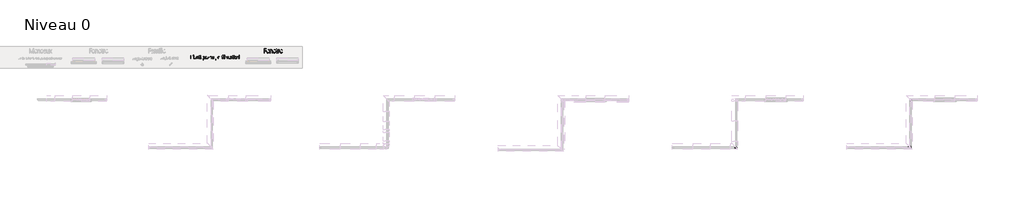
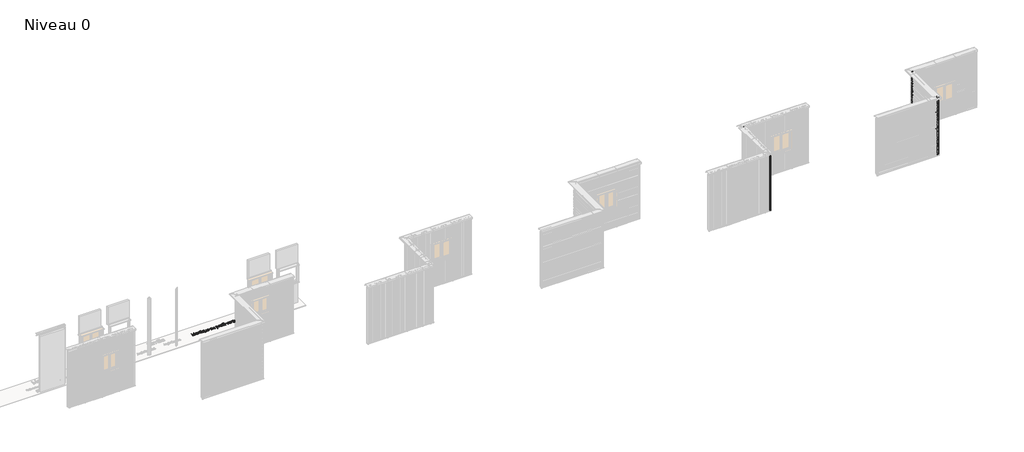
# One storey, part 8 of 11: 6 proxies.
"""IFC4 building model written with IfcOpenShell, lengths in millimetres."""

from ifc_helpers import new_model, si_unit, origin, origin_with_axes, place, context, project, spatial, polyline, outline, extrude, transform, mapped, element, save
from components import generic_models_8bef1f62, generic_models_79ab70e4, generic_models_60d2bb67, generic_models_bf32fdc3

model = new_model("IFC4")

# Units and contexts
model_context = context("Model", 3, world=origin())
ifc_project = project(units=[si_unit("LENGTHUNIT", "METRE", prefix="MILLI")], contexts=[model_context])

# Site, building, storey
site = spatial("IfcSite", under=ifc_project)
building = spatial("IfcBuilding", under=site)
storey = spatial("IfcBuildingStorey", under=building, Name="Niveau 0", Elevation=0.0)

# Proxies
placement = place(None, origin())
generic_models_shape = generic_models_8bef1f62(model_context)
element("IfcBuildingElementProxy", 1, Name="Angle sortant V : Angle sortant V", ObjectType="Angle sortant V : Angle sortant V", at=placement, inside=storey, context=model_context, shape_type="MappedRepresentation", body=[
    mapped(generic_models_shape, transform((35916.1625566, -19143.0925195, 30.7239521), x_axis=(1.0, 0.0, 0.0), y_axis=(0.0, 1.0, 0.0), z_axis=(0.0, 0.0, 1.0))),
])
generic_models_2_shape = generic_models_79ab70e4(model_context)
element("IfcBuildingElementProxy", 2, Name="Angle Rentrant V : Angle Rentrant V", ObjectType="Angle Rentrant V : Angle Rentrant V", at=placement, inside=storey, context=model_context, shape_type="MappedRepresentation", body=[
    mapped(generic_models_2_shape, transform((35891.6404896, -16912.8730274, 30.7239521), x_axis=(-1.0, 0.0, 0.0), y_axis=(0.0, -1.0, 0.0), z_axis=(0.0, 0.0, 1.0))),
])
generic_models_3_shape = generic_models_60d2bb67(model_context)
element("IfcBuildingElementProxy", 3, Name="Angle sortant H : Angle sortant H", ObjectType="Angle sortant H : Angle sortant H", at=placement, inside=storey, context=model_context, shape_type="MappedRepresentation", body=[
    mapped(generic_models_3_shape, transform((43878.0369394, -19123.2135395, 30.7239521), x_axis=(1.0, 0.0, 0.0), y_axis=(0.0, 1.0, 0.0), z_axis=(0.0, 0.0, 1.0))),
])
generic_models_4_shape = generic_models_bf32fdc3(model_context)
element("IfcBuildingElementProxy", 4, Name="Angle Rentrant H : Angle Rentrant H", ObjectType="Angle Rentrant H : Angle Rentrant H", at=placement, inside=storey, context=model_context, shape_type="MappedRepresentation", body=[
    mapped(generic_models_4_shape, transform((43835.6136634, -16880.8730274, 30.7239521), x_axis=(-1.0, 0.0, 0.0), y_axis=(0.0, -1.0, 0.0), z_axis=(0.0, 0.0, 1.0))),
])
element("IfcBuildingElementProxy", 5, Name="1.5mm", ObjectType="1.5mm", at=placement, inside=storey, context=model_context, shape_type="SweptSolid", body=[
    extrude(outline(polyline([(10902.4914803, -15028.8347653), (10895.5043429, -15028.8347653), (10895.5043429, -14877.3265782), (10902.4914803, -14877.3265782), (10902.4914803, -15028.8347653)])), origin_with_axes(), (0.0, 0.0, 1.0), 10.0),
    extrude(outline(polyline([(11014.488532, -15005.4842027), (11007.8282123, -15016.3255354), (10998.6885857, -15024.5072479), (10987.4640875, -15029.6461748), (10974.7069268, -15031.3591505), (10956.0163341, -15027.5951119), (10941.4165977, -15016.3029962), (10932.0008665, -14998.7788047), (10928.8622894, -14976.3185386), (10932.44038, -14952.1227578), (10943.1746516, -14933.6293827), (10959.2168939, -14921.8977535), (10978.7188961, -14917.9872104), (10999.9958566, -14923.2162939), (11008.3128041, -14929.549796), (11014.3307579, -14938.092135), (11014.6463061, -14868.6715435), (11021.1826605, -14868.6715435), (11021.1826605, -15028.8347653), (11014.6463061, -15028.8347653), (11014.488532, -15005.4842027)]), holes=[polyline([(10935.6240354, -14975.9128339), (10938.3569077, -14996.6601243), (10946.5555246, -15012.2008703), (10959.1041981, -15021.9039757), (10974.88724, -15025.1383442), (10991.1548738, -15022.0335759), (11003.8049735, -15012.7192709), (11011.9359729, -14998.6830133), (11014.6463061, -14981.4123872), (11014.6463061, -14958.7830775), (11012.0824774, -14945.2821248), (11004.3909914, -14934.1703223), (10992.8115015, -14926.7324018), (10978.5836611, -14924.253095), (10961.6060441, -14927.7353941), (10947.8177172, -14938.1822916), (10938.6724558, -14954.5795255), (10935.6240354, -14975.9128339)])]), origin_with_axes(), (0.0, 0.0, 1.0), 10.0),
    extrude(outline(polyline([(11136.4028111, -14971.9234038), (11053.7742759, -14972.7122741), (11056.3268349, -14995.7754625), (11064.6156085, -15012.1332529), (11077.6601433, -15021.9096105), (11094.4799863, -15025.2285008), (11114.9455373, -15020.1571914), (11129.4156736, -15004.943263), (11135.1406185, -15008.0085879), (11127.8830112, -15018.1568415), (11118.5518018, -15025.5215098), (11107.3498428, -15030.0011665), (11094.4799863, -15031.4943854), (11075.0681407, -15027.8035991), (11060.0176213, -15017.0017099), (11050.365229, -14998.6717437), (11047.1477648, -14972.396726), (11050.4835595, -14950.2125645), (11060.4909435, -14932.8855906), (11075.6597935, -14921.7118055), (11094.4799863, -14917.9872104), (11112.1732215, -14921.3962573), (11125.4037044, -14931.623398), (11133.6530344, -14948.3192757), (11136.4028111, -14971.9234038)]), holes=[polyline([(11129.7312218, -14966.6267028), (11127.0603321, -14948.2291191), (11119.8590727, -14934.9591927), (11108.7247311, -14926.9296194), (11094.2545948, -14924.253095), (11079.0237621, -14926.9972369), (11066.6892106, -14935.2296625), (11058.0961585, -14948.5672064), (11054.089824, -14966.6267028), (11129.7312218, -14966.6267028)])]), origin_with_axes(), (0.0, 0.0, 1.0), 10.0),
    extrude(outline(polyline([(11241.8860475, -15028.8347653), (11235.4398498, -15028.8347653), (11235.4398498, -14961.4426976), (11233.3775173, -14945.7498122), (11227.1905197, -14934.0125483), (11217.3296403, -14926.6929583), (11204.2456619, -14924.253095), (11189.7980648, -14926.8676367), (11178.2805575, -14934.711262), (11170.7412108, -14946.6232044), (11168.2280952, -14961.4426976), (11168.2280952, -15028.8347653), (11161.6917409, -15028.8347653), (11161.6917409, -14920.6468305), (11168.2280952, -14920.6468305), (11168.2280952, -14939.128936), (11183.0813971, -14923.4416855), (11204.6062883, -14917.9872104), (11220.3386172, -14920.8553176), (11232.1040551, -14929.4596393), (11239.4405494, -14943.0338443), (11241.8860475, -14960.8116013), (11241.8860475, -15028.8347653)])), origin_with_axes(), (0.0, 0.0, 1.0), 10.0),
    extrude(outline(polyline([(11315.6792348, -15023.5606035), (11306.7762693, -15029.2179309), (11296.9717377, -15030.9534457), (11288.0856766, -15029.4714964), (11281.7127311, -15025.0256484), (11277.8754402, -15017.6271714), (11276.5963433, -15007.287335), (11276.5963433, -14926.6873235), (11256.7618886, -14926.6873235), (11256.7618886, -14920.6468305), (11276.5963433, -14920.6468305), (11276.5963433, -14891.571323), (11283.1326977, -14890.4443653), (11283.1326977, -14920.6468305), (11312.6139099, -14920.6468305), (11312.6139099, -14926.6873235), (11283.1326977, -14926.6873235), (11283.1326977, -15006.8365519), (11286.7389622, -15020.4276612), (11297.4225208, -15024.9129527), (11304.8604413, -15023.492986), (11311.892657, -15018.782303), (11315.6792348, -15023.5606035)])), origin_with_axes(), (0.0, 0.0, 1.0), 10.0),
    extrude(outline(polyline([(11340.8329296, -15028.8347653), (11334.2514969, -15028.8347653), (11334.2514969, -14920.6468305), (11340.8329296, -14920.6468305), (11340.8329296, -15028.8347653)])), origin_with_axes(), (0.0, 0.0, 1.0), 10.0),
    extrude(outline(polyline([(11337.4520566, -14894.2309431), (11332.4709038, -14892.3376542), (11330.4649192, -14887.3790405), (11332.4709038, -14882.3978877), (11337.4520566, -14880.4820597), (11342.5459052, -14882.3978877), (11344.3941158, -14887.3790405), (11342.5459052, -14892.3376542), (11337.4520566, -14894.2309431)])), origin_with_axes(), (0.0, 0.0, 1.0), 10.0),
    extrude(outline(polyline([(11462.5894346, -15078.6012153), (11456.0530802, -15078.6012153), (11456.0530802, -15005.3940461), (11448.9363426, -15016.415692), (11439.8023508, -15024.5974045), (11428.7299919, -15029.668714), (11416.1137009, -15031.3591505), (11397.3667604, -15027.5951119), (11382.7782935, -15016.3029962), (11373.396371, -14998.7788047), (11370.2690635, -14976.3185386), (11373.8471541, -14952.1227578), (11384.5814258, -14933.6293827), (11400.623668, -14921.8977535), (11420.1256702, -14917.9872104), (11441.3575524, -14923.1261373), (11455.7375321, -14938.1822916), (11456.0530802, -14920.6468305), (11462.5894346, -14920.6468305), (11462.5894346, -15078.6012153)]), holes=[polyline([(11456.0530802, -14981.0968391), (11456.0530802, -14959.1887823), (11453.5174255, -14945.3272031), (11445.9104613, -14934.125244), (11434.3591454, -14926.7211322), (11419.9904353, -14924.253095), (11403.0128182, -14927.7241246), (11389.2244913, -14938.1372133), (11380.0792299, -14954.5231776), (11377.0308095, -14975.9128339), (11379.7467774, -14996.6601243), (11387.8946813, -15012.2008703), (11400.4264504, -15021.9039757), (11416.2940142, -15025.1383442), (11432.4207782, -15022.0054019), (11445.0990518, -15012.6065751), (11453.3145731, -14998.4632565), (11456.0530802, -14981.0968391)])]), origin_with_axes(), (0.0, 0.0, 1.0), 10.0),
    extrude(outline(polyline([(11574.3385556, -15028.7446087), (11567.8923578, -15028.7446087), (11567.8923578, -15010.2174249), (11552.8812819, -15025.9272146), (11531.9649478, -15031.3591505), (11516.2776973, -15028.5361215), (11504.2868678, -15020.0670348), (11496.6799037, -15006.6055256), (11494.1442489, -14988.8052294), (11494.1442489, -14920.5566739), (11500.6806033, -14920.5566739), (11500.6806033, -14988.1741331), (11502.8049185, -15003.5571051), (11509.177864, -15015.2661952), (11519.2585003, -15022.6703069), (11532.5058875, -15025.1383442), (11546.4801624, -15022.5125329), (11557.8398956, -15014.6350989), (11565.3792423, -15002.7118869), (11567.8923578, -14987.9487416), (11567.8923578, -14920.5566739), (11574.3385556, -14920.5566739), (11574.3385556, -15028.7446087)])), origin_with_axes(), (0.0, 0.0, 1.0), 10.0),
    extrude(outline(polyline([(11687.4400258, -14971.9234038), (11604.8114906, -14972.7122741), (11607.3640497, -14995.7754625), (11615.6528232, -15012.1332529), (11628.6973581, -15021.9096105), (11645.5172011, -15025.2285008), (11665.9827521, -15020.1571914), (11680.4528884, -15004.943263), (11686.1778333, -15008.0085879), (11678.920226, -15018.1568415), (11669.5890166, -15025.5215098), (11658.3870575, -15030.0011665), (11645.5172011, -15031.4943854), (11626.1053555, -15027.8035991), (11611.054836, -15017.0017099), (11601.4024437, -14998.6717437), (11598.1849796, -14972.396726), (11601.5207743, -14950.2125645), (11611.5281582, -14932.8855906), (11626.6970083, -14921.7118055), (11645.5172011, -14917.9872104), (11663.2104363, -14921.3962573), (11676.4409191, -14931.623398), (11684.6902492, -14948.3192757), (11687.4400258, -14971.9234038)]), holes=[polyline([(11680.7684365, -14966.6267028), (11678.0975469, -14948.2291191), (11670.8962875, -14934.9591927), (11659.7619458, -14926.9296194), (11645.2918096, -14924.253095), (11630.0609769, -14926.9972369), (11617.7264253, -14935.2296625), (11609.1333732, -14948.5672064), (11605.1270387, -14966.6267028), (11680.7684365, -14966.6267028)])]), origin_with_axes(), (0.0, 0.0, 1.0), 10.0),
    extrude(outline(polyline([(11836.8295325, -15028.8347653), (11830.2480998, -15028.8347653), (11830.2480998, -15008.0085879), (11814.3579969, -15024.8227961), (11803.4884903, -15029.7250619), (11791.4807565, -15031.3591505), (11777.5290207, -15029.2461049), (11767.1384712, -15022.9069681), (11760.6810038, -15013.2658453), (11758.5285147, -15001.2468419), (11760.8782214, -14988.9799079), (11767.9273415, -14979.2260894), (11780.0026928, -14972.1431605), (11797.4310929, -14967.8888954), (11830.3833347, -14963.2458298), (11830.3833347, -14956.8897887), (11828.3097326, -14942.7802788), (11822.0889264, -14932.5475033), (11812.3294731, -14926.3266971), (11799.6399299, -14924.253095), (11780.7746588, -14929.3244044), (11767.1835495, -14944.3129412), (11761.1881347, -14940.9320683), (11777.5966382, -14923.8699294), (11799.6399299, -14917.9872104), (11814.9102061, -14920.5115956), (11826.7319919, -14928.084751), (11834.3051474, -14940.3573199), (11836.8295325, -14956.9799453), (11836.8295325, -15028.8347653)]), holes=[polyline([(11830.2480998, -14986.686549), (11830.2480998, -14969.4666361), (11798.2425024, -14973.7941535), (11783.5018963, -14977.1975656), (11773.2691208, -14982.8098147), (11767.2849757, -14990.732327), (11765.2902606, -15001.0665287), (11767.0990276, -15011.090817), (11772.5253287, -15018.8048422), (11781.0169547, -15023.7240124), (11792.0216962, -15025.3637357), (11806.5200064, -15022.5745155), (11818.9109058, -15014.206855), (11827.4138013, -15001.7483381), (11830.2480998, -14986.686549)])]), origin_with_axes(), (0.0, 0.0, 1.0), 10.0),
    extrude(outline(polyline([(11946.5050515, -15028.7446087), (11940.0588537, -15028.7446087), (11940.0588537, -15010.2174249), (11925.0477777, -15025.9272146), (11904.1314436, -15031.3591505), (11888.4441931, -15028.5361215), (11876.4533636, -15020.0670348), (11868.8463995, -15006.6055256), (11866.3107448, -14988.8052294), (11866.3107448, -14920.5566739), (11872.8470992, -14920.5566739), (11872.8470992, -14988.1741331), (11874.9714143, -15003.5571051), (11881.3443599, -15015.2661952), (11891.4249961, -15022.6703069), (11904.6723833, -15025.1383442), (11918.6466582, -15022.5125329), (11930.0063914, -15014.6350989), (11937.5457381, -15002.7118869), (11940.0588537, -14987.9487416), (11940.0588537, -14920.5566739), (11946.5050515, -14920.5566739), (11946.5050515, -15028.7446087)])), origin_with_axes(), (0.0, 0.0, 1.0), 10.0),
    extrude(outline(polyline([(12036.9321337, -15010.4428164), (12036.6165855, -15078.6012153), (12030.0802311, -15078.6012153), (12030.0802311, -14920.6468305), (12036.6165855, -14920.6468305), (12036.6165855, -14945.2595857), (12043.3557923, -14934.3280964), (12052.439071, -14925.6054442), (12064.0467348, -14919.8917689), (12078.0435489, -14917.9872104), (12096.4242282, -14921.7005359), (12110.5450076, -14932.8405123), (12119.5381297, -14949.9195556), (12122.5358371, -14971.4500815), (12119.2563903, -14996.8291679), (12109.41805, -15015.7169782), (12094.113965, -15027.4486074), (12074.4372844, -15031.3591505), (12061.7815499, -15029.8941055), (12051.2219567, -15025.4989707), (12036.9321337, -15010.4428164)]), holes=[polyline([(12036.6165855, -14969.6469493), (12036.6165855, -14988.895386), (12039.2705708, -15002.8076783), (12047.2325266, -15014.5224031), (12059.3754953, -15022.4843589), (12074.5725193, -15025.1383442), (12091.3303796, -15021.7462017), (12104.4594363, -15011.569774), (12112.9454274, -14994.7893746), (12115.7740912, -14971.5853165), (12113.1820886, -14952.2579927), (12105.4060807, -14937.1905689), (12093.3025555, -14927.4874634), (12077.7280007, -14924.253095), (12060.502453, -14927.5945244), (12047.5029964, -14937.6188128), (12039.3381882, -14952.3087058), (12036.6165855, -14969.6469493)])]), origin_with_axes(), (0.0, 0.0, 1.0), 10.0),
    extrude(outline(polyline([(12196.2388677, -14926.6873235), (12191.0097842, -14924.9067304), (12185.7807007, -14924.4334082), (12173.4574187, -14927.6170636), (12163.5345566, -14937.1680297), (12156.9925674, -14952.7144105), (12154.8119043, -14973.8843101), (12154.8119043, -15028.8347653), (12148.3657065, -15028.8347653), (12148.3657065, -14920.6468305), (12154.8119043, -14920.6468305), (12154.8119043, -14944.5383328), (12159.9339269, -14933.4716086), (12166.9605078, -14925.2448177), (12175.8127602, -14920.1396995), (12186.0962488, -14918.4379935), (12192.3170551, -14918.956394), (12198.7632528, -14920.9623786), (12196.2388677, -14926.6873235)])), origin_with_axes(), (0.0, 0.0, 1.0), 10.0),
    extrude(outline(polyline([(12260.9262371, -15031.3591505), (12240.195851, -15027.4486074), (12223.8944085, -15015.7169782), (12213.3291805, -14997.7081949), (12209.8074379, -14974.9661894), (12213.4475111, -14952.0664099), (12224.3677307, -14933.8547742), (12240.88893, -14921.9541014), (12261.3319418, -14917.9872104), (12281.9552669, -14921.9653709), (12298.1158397, -14933.8998525), (12308.5627371, -14952.0664099), (12312.0450363, -14974.7407979), (12308.5176588, -14997.4546294), (12297.9355264, -15015.5592041), (12281.6284492, -15027.4091639), (12260.9262371, -15031.3591505)]), holes=[polyline([(12261.1516286, -15025.1383442), (12279.2054902, -15021.6278711), (12293.2473826, -15011.0964518), (12302.2743134, -14994.964053), (12305.2832903, -14974.6506413), (12302.285583, -14954.3484991), (12293.2924609, -14938.249909), (12279.3069164, -14927.7522985), (12261.3319418, -14924.253095), (12243.255541, -14927.8142812), (12228.965718, -14938.4978397), (12219.6683173, -14954.7598387), (12216.5691838, -14975.056346), (12219.6176042, -14995.2626968), (12228.7628656, -15011.2542259), (12242.9568973, -15021.6673146), (12261.1516286, -15025.1383442)])]), origin_with_axes(), (0.0, 0.0, 1.0), 10.0),
    extrude(outline(polyline([(12381.4205495, -14876.1545423), (12375.8308395, -14873.7879312), (12369.7903465, -14872.9990609), (12360.701433, -14874.7176713), (12354.0805568, -14879.8735025), (12350.0404136, -14888.376398), (12348.6936992, -14900.1362012), (12348.6936992, -14920.6468305), (12378.5806162, -14920.6468305), (12378.5806162, -14926.6873235), (12348.6936992, -14926.6873235), (12348.6936992, -15028.8347653), (12342.2475014, -15028.8347653), (12342.2475014, -14926.6873235), (12322.2778118, -14926.6873235), (12322.2778118, -14920.6468305), (12342.2475014, -14920.6468305), (12342.2475014, -14899.820653), (12344.067538, -14885.823839), (12349.5276479, -14875.4783677), (12358.2897436, -14869.0885178), (12370.015738, -14866.9585678), (12377.1381104, -14867.8150556), (12384.3957177, -14870.6549889), (12381.4205495, -14876.1545423)])), origin_with_axes(), (0.0, 0.0, 1.0), 10.0),
    extrude(outline(polyline([(12396.2513122, -14894.2309431), (12391.2701594, -14892.3376542), (12389.2641748, -14887.3790405), (12391.2701594, -14882.3978877), (12396.2513122, -14880.4820597), (12401.3451608, -14882.3978877), (12403.1933714, -14887.3790405), (12401.3451608, -14892.3376542), (12396.2513122, -14894.2309431)])), origin_with_axes(), (0.0, 0.0, 1.0), 10.0),
    extrude(outline(polyline([(12399.6321852, -15028.8347653), (12393.0507525, -15028.8347653), (12393.0507525, -14920.6468305), (12399.6321852, -14920.6468305), (12399.6321852, -15028.8347653)])), origin_with_axes(), (0.0, 0.0, 1.0), 10.0),
    extrude(outline(polyline([(12436.8668661, -15028.8347653), (12436.8668661, -14868.6715435), (12443.4032205, -14868.6715435), (12443.4032205, -15028.8347653), (12436.8668661, -15028.8347653)])), origin_with_axes(), (0.0, 0.0, 1.0), 10.0),
    extrude(outline(polyline([(12604.8286349, -14920.6468305), (12562.0493223, -15028.8347653), (12556.7751605, -15028.8347653), (12514.6269442, -14920.6468305), (12521.8845515, -14920.6468305), (12556.4596124, -15010.0371116), (12558.0824314, -15014.1843158), (12559.3897023, -15017.745502), (12561.260452, -15014.0490809), (12562.7705752, -15010.2174249), (12597.8414975, -14920.6468305), (12604.8286349, -14920.6468305)])), origin_with_axes(), (0.0, 0.0, 1.0), 10.0),
    extrude(outline(polyline([(12705.8491191, -14971.9234038), (12623.2205838, -14972.7122741), (12625.7731429, -14995.7754625), (12634.0619165, -15012.1332529), (12647.1064513, -15021.9096105), (12663.9262943, -15025.2285008), (12684.3918453, -15020.1571914), (12698.8619816, -15004.943263), (12704.5869265, -15008.0085879), (12697.3293192, -15018.1568415), (12687.9981098, -15025.5215098), (12676.7961507, -15030.0011665), (12663.9262943, -15031.4943854), (12644.5144487, -15027.8035991), (12629.4639292, -15017.0017099), (12619.8115369, -14998.6717437), (12616.5940728, -14972.396726), (12619.9298675, -14950.2125645), (12629.9372515, -14932.8855906), (12645.1061015, -14921.7118055), (12663.9262943, -14917.9872104), (12681.6195295, -14921.3962573), (12694.8500124, -14931.623398), (12703.0993424, -14948.3192757), (12705.8491191, -14971.9234038)]), holes=[polyline([(12699.1775297, -14966.6267028), (12696.5066401, -14948.2291191), (12689.3053807, -14934.9591927), (12678.1710391, -14926.9296194), (12663.7009028, -14924.253095), (12648.4700701, -14926.9972369), (12636.1355186, -14935.2296625), (12627.5424664, -14948.5672064), (12623.536132, -14966.6267028), (12699.1775297, -14966.6267028)])]), origin_with_axes(), (0.0, 0.0, 1.0), 10.0),
    extrude(outline(polyline([(12779.01121, -14926.6873235), (12773.7821265, -14924.9067304), (12768.553043, -14924.4334082), (12756.229761, -14927.6170636), (12746.3068989, -14937.1680297), (12739.7649097, -14952.7144105), (12737.5842466, -14973.8843101), (12737.5842466, -15028.8347653), (12731.1380488, -15028.8347653), (12731.1380488, -14920.6468305), (12737.5842466, -14920.6468305), (12737.5842466, -14944.5383328), (12742.7062692, -14933.4716086), (12749.7328501, -14925.2448177), (12758.5851025, -14920.1396995), (12768.8685911, -14918.4379935), (12775.0893974, -14918.956394), (12781.5355951, -14920.9623786), (12779.01121, -14926.6873235)])), origin_with_axes(), (0.0, 0.0, 1.0), 10.0),
    extrude(outline(polyline([(12844.7353804, -15023.5606035), (12835.8324149, -15029.2179309), (12826.0278833, -15030.9534457), (12817.1418222, -15029.4714964), (12810.7688767, -15025.0256484), (12806.9315859, -15017.6271714), (12805.6524889, -15007.287335), (12805.6524889, -14926.6873235), (12785.8180342, -14926.6873235), (12785.8180342, -14920.6468305), (12805.6524889, -14920.6468305), (12805.6524889, -14891.571323), (12812.1888433, -14890.4443653), (12812.1888433, -14920.6468305), (12841.6700556, -14920.6468305), (12841.6700556, -14926.6873235), (12812.1888433, -14926.6873235), (12812.1888433, -15006.8365519), (12815.7951078, -15020.4276612), (12826.4786664, -15024.9129527), (12833.9165869, -15023.492986), (12840.9488027, -15018.782303), (12844.7353804, -15023.5606035)])), origin_with_axes(), (0.0, 0.0, 1.0), 10.0),
    extrude(outline(polyline([(12866.5082023, -14894.2309431), (12861.5270495, -14892.3376542), (12859.5210648, -14887.3790405), (12861.5270495, -14882.3978877), (12866.5082023, -14880.4820597), (12871.6020509, -14882.3978877), (12873.4502614, -14887.3790405), (12871.6020509, -14892.3376542), (12866.5082023, -14894.2309431)])), origin_with_axes(), (0.0, 0.0, 1.0), 10.0),
    extrude(outline(polyline([(12869.8890753, -15028.8347653), (12863.3076426, -15028.8347653), (12863.3076426, -14920.6468305), (12869.8890753, -14920.6468305), (12869.8890753, -15028.8347653)])), origin_with_axes(), (0.0, 0.0, 1.0), 10.0),
    extrude(outline(polyline([(12987.0926713, -15011.2091476), (12971.0447943, -15026.0849886), (12948.0097799, -15031.3591505), (12928.6542821, -15027.5162249), (12913.0515534, -15015.9874481), (12902.7567952, -14998.0462822), (12899.3252092, -14974.9661894), (12902.8863954, -14951.4465832), (12913.5699539, -14933.3589128), (12929.696718, -14921.830136), (12949.5875206, -14917.9872104), (12970.8870202, -14922.9683633), (12986.8672798, -14937.7765868), (12981.7283529, -14941.337773), (12967.3934515, -14928.1298293), (12949.497364, -14924.1178601), (12932.2380075, -14927.5156374), (12918.3257152, -14937.7089694), (12909.1466451, -14953.8413682), (12906.0869551, -14975.056346), (12909.0677581, -14995.5726101), (12918.0101671, -15011.5021566), (12931.5280242, -15021.7292973), (12948.2351714, -15025.1383442), (12967.6639214, -15020.6981311), (12981.9086661, -15007.3774916), (12987.0926713, -15011.2091476)])), origin_with_axes(), (0.0, 0.0, 1.0), 10.0),
    extrude(outline(polyline([(13083.1545418, -15028.8347653), (13076.5731091, -15028.8347653), (13076.5731091, -15008.0085879), (13060.6830062, -15024.8227961), (13049.8134996, -15029.7250619), (13037.8057658, -15031.3591505), (13023.85403, -15029.2461049), (13013.4634804, -15022.9069681), (13007.0060131, -15013.2658453), (13004.853524, -15001.2468419), (13007.2032307, -14988.9799079), (13014.2523508, -14979.2260894), (13026.3277021, -14972.1431605), (13043.7561022, -14967.8888954), (13076.708344, -14963.2458298), (13076.708344, -14956.8897887), (13074.6347419, -14942.7802788), (13068.4139357, -14932.5475033), (13058.6544824, -14926.3266971), (13045.9649392, -14924.253095), (13027.0996681, -14929.3244044), (13013.5085587, -14944.3129412), (13007.513144, -14940.9320683), (13023.9216475, -14923.8699294), (13045.9649392, -14917.9872104), (13061.2352154, -14920.5115956), (13073.0570012, -14928.084751), (13080.6301566, -14940.3573199), (13083.1545418, -14956.9799453), (13083.1545418, -15028.8347653)]), holes=[polyline([(13076.5731091, -14986.686549), (13076.5731091, -14969.4666361), (13044.5675117, -14973.7941535), (13029.8269056, -14977.1975656), (13019.5941301, -14982.8098147), (13013.6099849, -14990.732327), (13011.6152699, -15001.0665287), (13013.4240369, -15011.090817), (13018.850338, -15018.8048422), (13027.341964, -15023.7240124), (13038.3467054, -15025.3637357), (13052.8450157, -15022.5745155), (13065.2359151, -15014.206855), (13073.7388106, -15001.7483381), (13076.5731091, -14986.686549)])]), origin_with_axes(), (0.0, 0.0, 1.0), 10.0),
    extrude(outline(polyline([(13114.844591, -15028.8347653), (13114.844591, -14868.6715435), (13121.3809454, -14868.6715435), (13121.3809454, -15028.8347653), (13114.844591, -15028.8347653)])), origin_with_axes(), (0.0, 0.0, 1.0), 10.0),
])
element("IfcBuildingElementProxy", 6, Name="2mm", ObjectType="2mm", at=placement, inside=storey, context=model_context, shape_type="SweptSolid", body=[
    extrude(outline(polyline([(14347.8173149, -14569.4499627), (14267.3607209, -14569.4499627), (14267.3607209, -14656.6311093), (14342.2234393, -14656.6311093), (14342.2234393, -14665.438488), (14267.3607209, -14665.438488), (14267.3607209, -14760.83192), (14258.1367771, -14760.83192), (14258.1367771, -14560.821112), (14347.8173149, -14560.821112), (14347.8173149, -14569.4499627)])), origin_with_axes(), (0.0, 0.0, 1.0), 10.0),
    extrude(outline(polyline([(14488.5568451, -14686.7428228), (14379.4762705, -14686.7428228), (14382.8459855, -14717.1892761), (14393.7882608, -14738.7837188), (14411.0087689, -14751.6898015), (14433.213182, -14756.0711748), (14447.554927, -14754.3974754), (14460.2304111, -14749.3763769), (14470.9272105, -14741.0078795), (14479.3329012, -14729.291983), (14486.8905843, -14733.3386165), (14477.3095845, -14746.735651), (14464.9911563, -14756.4579854), (14450.2030915, -14762.3717236), (14433.213182, -14764.3429696), (14407.5869832, -14759.4706445), (14387.7183107, -14745.2107248), (14374.9758786, -14721.0127496), (14370.7284012, -14686.3262576), (14375.1320905, -14657.0402359), (14388.3431585, -14634.1663429), (14408.368043, -14619.4154714), (14433.213182, -14614.4985142), (14456.5705882, -14618.9989062), (14474.0365722, -14632.5000821), (14484.9267769, -14654.5408446), (14488.5568451, -14684.6599967), (14488.5568451, -14686.7428228)]), holes=[polyline([(14479.7494664, -14678.7090652), (14476.2235395, -14654.421826), (14466.7169264, -14636.9037714), (14452.0181256, -14626.3036746), (14432.9156355, -14622.770309), (14412.8089256, -14626.3929386), (14396.5256893, -14637.2608273), (14385.1817261, -14654.8681459), (14379.8928357, -14678.7090652), (14479.7494664, -14678.7090652)])]), origin_with_axes(), (0.0, 0.0, 1.0), 10.0),
    extrude(outline(polyline([(14627.8086424, -14760.83192), (14619.2988103, -14760.83192), (14619.2988103, -14671.865494), (14616.5762592, -14651.1488137), (14608.4086057, -14635.6540758), (14595.390943, -14625.9912507), (14578.1183643, -14622.770309), (14559.0456288, -14626.2218493), (14543.8409988, -14636.5764701), (14533.8880658, -14652.3018067), (14530.5704215, -14671.865494), (14530.5704215, -14760.83192), (14521.9415708, -14760.83192), (14521.9415708, -14618.0095638), (14530.5704215, -14618.0095638), (14530.5704215, -14642.408383), (14539.3554842, -14630.4767653), (14550.1787409, -14621.6991414), (14563.3079835, -14616.298671), (14578.5944388, -14614.4985142), (14599.3631898, -14618.2847944), (14614.895121, -14629.6436349), (14624.580262, -14647.5633774), (14627.8086424, -14671.0323636), (14627.8086424, -14760.83192)])), origin_with_axes(), (0.0, 0.0, 1.0), 10.0),
    extrude(outline(polyline([(14774.2015575, -14686.7428228), (14665.1209829, -14686.7428228), (14668.4906979, -14717.1892761), (14679.4329732, -14738.7837188), (14696.6534813, -14751.6898015), (14718.8578945, -14756.0711748), (14733.1996394, -14754.3974754), (14745.8751235, -14749.3763769), (14756.5719229, -14741.0078795), (14764.9776137, -14729.291983), (14772.5352967, -14733.3386165), (14762.954297, -14746.735651), (14750.6358687, -14756.4579854), (14735.8478039, -14762.3717236), (14718.8578945, -14764.3429696), (14693.2316957, -14759.4706445), (14673.3630231, -14745.2107248), (14660.620591, -14721.0127496), (14656.3731136, -14686.3262576), (14660.7768029, -14657.0402359), (14673.9878709, -14634.1663429), (14694.0127554, -14619.4154714), (14718.8578945, -14614.4985142), (14742.2153006, -14618.9989062), (14759.6812846, -14632.5000821), (14770.5714893, -14654.5408446), (14774.2015575, -14684.6599967), (14774.2015575, -14686.7428228)]), holes=[polyline([(14765.3941789, -14678.7090652), (14761.868252, -14654.421826), (14752.3616389, -14636.9037714), (14737.662838, -14626.3036746), (14718.5603479, -14622.770309), (14698.4536381, -14626.3929386), (14682.1704017, -14637.2608273), (14670.8264385, -14654.8681459), (14665.5375482, -14678.7090652), (14765.3941789, -14678.7090652)])]), origin_with_axes(), (0.0, 0.0, 1.0), 10.0),
    extrude(outline(polyline([(14866.1434493, -14753.8693302), (14854.3903596, -14761.3377492), (14841.4470836, -14763.6288579), (14829.7163098, -14761.6724891), (14821.3031804, -14755.8033829), (14816.23745, -14746.0364166), (14814.5488731, -14732.3864674), (14814.5488731, -14625.9838121), (14788.3647745, -14625.9838121), (14788.3647745, -14618.0095638), (14814.5488731, -14618.0095638), (14814.5488731, -14579.6260556), (14823.1777238, -14578.1383227), (14823.1777238, -14618.0095638), (14862.0968159, -14618.0095638), (14862.0968159, -14625.9838121), (14823.1777238, -14625.9838121), (14823.1777238, -14731.7913743), (14827.938469, -14749.7334328), (14833.8447686, -14754.1743154), (14842.0421767, -14755.6546096), (14851.8612137, -14753.7800662), (14861.1446669, -14747.5613428), (14866.1434493, -14753.8693302)])), origin_with_axes(), (0.0, 0.0, 1.0), 10.0),
    extrude(outline(polyline([(14954.5742915, -14625.9838121), (14947.671211, -14623.6331941), (14940.7681304, -14623.0083463), (14924.4997714, -14627.2111917), (14911.4002834, -14639.8197278), (14902.7639941, -14660.3430029), (14899.885231, -14688.290065), (14899.885231, -14760.83192), (14891.3753989, -14760.83192), (14891.3753989, -14618.0095638), (14899.885231, -14618.0095638), (14899.885231, -14649.5495008), (14906.6469769, -14634.939964), (14915.9229914, -14624.079514), (14927.6091331, -14617.340084), (14941.1846957, -14615.0936074), (14949.3969811, -14615.7779645), (14957.9068132, -14618.426129), (14954.5742915, -14625.9838121)])), origin_with_axes(), (0.0, 0.0, 1.0), 10.0),
    extrude(outline(polyline([(15090.3150393, -14686.7428228), (14981.2344647, -14686.7428228), (14984.6041797, -14717.1892761), (14995.546455, -14738.7837188), (15012.766963, -14751.6898015), (15034.9713762, -14756.0711748), (15049.3131212, -14754.3974754), (15061.9886053, -14749.3763769), (15072.6854047, -14741.0078795), (15081.0910954, -14729.291983), (15088.6487784, -14733.3386165), (15079.0677787, -14746.735651), (15066.7493505, -14756.4579854), (15051.9612857, -14762.3717236), (15034.9713762, -14764.3429696), (15009.3451774, -14759.4706445), (14989.4765048, -14745.2107248), (14976.7340728, -14721.0127496), (14972.4865954, -14686.3262576), (14976.8902847, -14657.0402359), (14990.1013527, -14634.1663429), (15010.1262372, -14619.4154714), (15034.9713762, -14614.4985142), (15058.3287824, -14618.9989062), (15075.7947664, -14632.5000821), (15086.684971, -14654.5408446), (15090.3150393, -14684.6599967), (15090.3150393, -14686.7428228)]), holes=[polyline([(15081.5076606, -14678.7090652), (15077.9817337, -14654.421826), (15068.4751206, -14636.9037714), (15053.7763198, -14626.3036746), (15034.6738297, -14622.770309), (15014.5671198, -14626.3929386), (14998.2838835, -14637.2608273), (14986.9399203, -14654.8681459), (14981.6510299, -14678.7090652), (15081.5076606, -14678.7090652)])]), origin_with_axes(), (0.0, 0.0, 1.0), 10.0),
])

save(model, "model.ifc")
